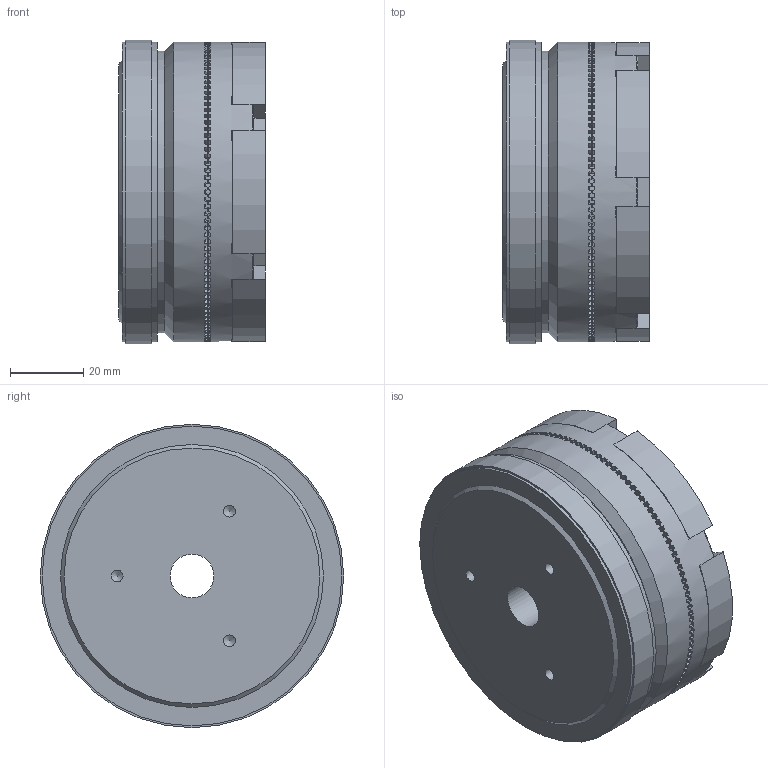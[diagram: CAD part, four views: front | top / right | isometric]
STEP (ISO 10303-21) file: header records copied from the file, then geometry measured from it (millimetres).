
FILE_DESCRIPTION(/* description */ (''),/* implementation_level */ '2;1');
FILE_NAME(/* name */ 'X:\INVENTOR\DISEGNI\07_Innesti_Elettmag_a_Dentini\07_01 EC_Z\07_01_082_01 EC082_Z\07_01_082_01 EC082_Z@STEP.stp',/* time_stamp */ '2018-12-21T12:14:42+01:00',/* author */ ('stefano'),/* organization */ (''),/* preprocessor_version */ 'ST-DEVELOPER v17',/* originating_system */ 'Autodesk Inventor 2018',/* authorisation */ '');
FILE_SCHEMA (('AUTOMOTIVE_DESIGN { 1 0 10303 214 3 1 1 }'));
Length unit declared in the file: millimetre
Products named in the file (1): 07_01_082_01 EC082_Z_Substitute_1
Bounding box: 40.1 x 83 x 83 mm (x, y, z)
Volume: 182467.4 mm3; surface area: 39353 mm2
Topology: 2 solids, 2 shells, 1235 faces, 3643 edges, 2423 vertices
Faces by surface type: plane 1163, cylinder 50, cone 22
Full cylindrical faces by diameter (mm): 3.242 x6, 5.25 x3, 5.75 x3, 8 x3, 9.5 x3, 12 x1, 35 x2, 50 x1, 66 x1, 74.5 x1, 75 x2, 77 x1, 82 x4, 83 x1
Entity records: 43693 total; most frequent: DIRECTION 8346, CARTESIAN_POINT 7386, ORIENTED_EDGE 7274, EDGE_CURVE 3637, AXIS2_PLACEMENT_3D 3518, VERTEX_POINT 2423, ELLIPSE 1562, LINE 1310
